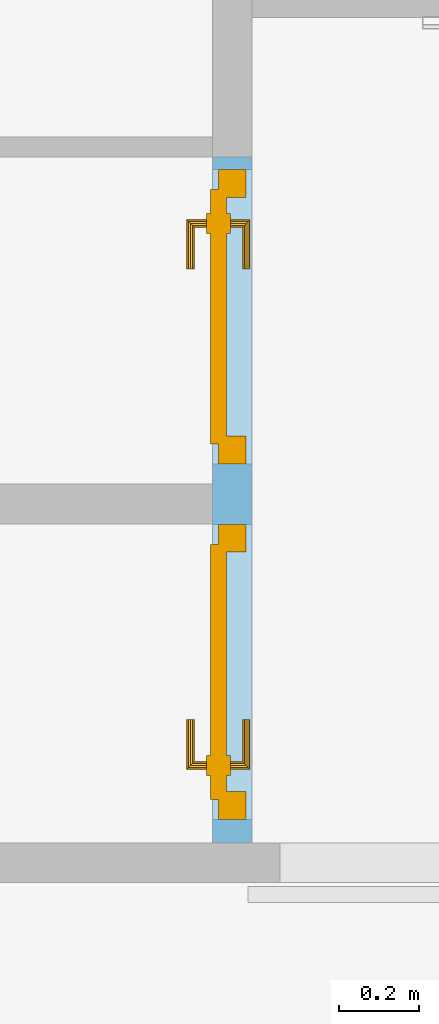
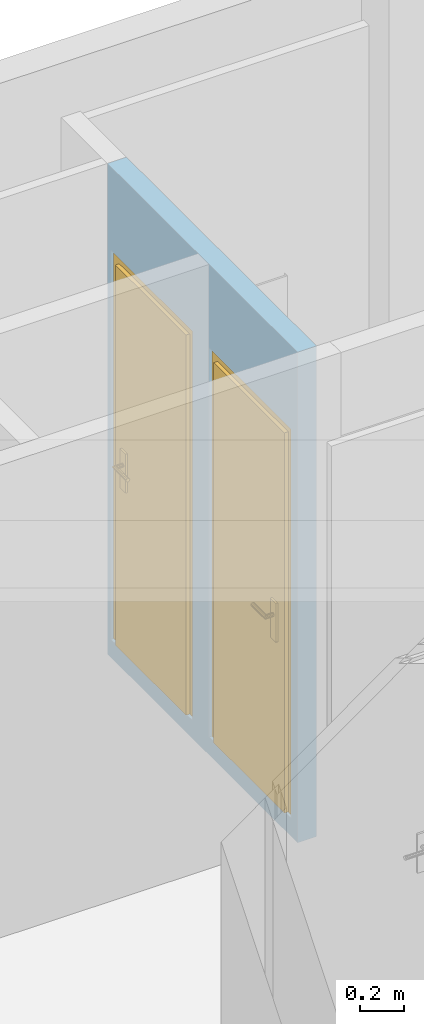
"""IFC4 building model written with IfcOpenShell, lengths in metres."""

from ifc_helpers import new_model, entity, si_unit, converted_unit, derived_unit, frame, origin, origin_with_axes, place, context, subcontext, project, spatial, polyline, outline, extrude, faceted_brep, source, transform, mapped, material, layer, layer_set, layer_usage, element, fill, save


model = new_model("IFC4")

# Units and contexts
model_context = context("Model", 3, precision=1e-05, world=origin())
body_context = subcontext(model_context, "Body", "Model", "MODEL_VIEW")
ifc_project = project(units=[si_unit("LENGTHUNIT", "METRE"), si_unit("AREAUNIT", "SQUARE_METRE"), si_unit("VOLUMEUNIT", "CUBIC_METRE"), si_unit("MASSUNIT", "GRAM", prefix="KILO"), converted_unit("PLANEANGLEUNIT", "DEGREE", entity("IfcPlaneAngleMeasure", 0.0174532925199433), si_unit("PLANEANGLEUNIT", "RADIAN"), dimensions=[0, 0, 0, 0, 0, 0, 0]), derived_unit("THERMALTRANSMITTANCEUNIT", [(si_unit("POWERUNIT", "WATT"), 1), (si_unit("THERMODYNAMICTEMPERATUREUNIT", "KELVIN"), -1), (si_unit("LENGTHUNIT", "METRE"), -2)]), derived_unit("VOLUMETRICFLOWRATEUNIT", [(si_unit("LENGTHUNIT", "METRE"), 3), (converted_unit("TIMEUNIT", "hour", entity("IfcTimeMeasure", 3600.0), si_unit("TIMEUNIT", "SECOND"), dimensions=[0, 0, 1, 0, 0, 0, 0]), -1), (si_unit("LENGTHUNIT", "METRE"), -1)])], contexts=[model_context])

# Building, storeys
building_placement = place(None, origin())
building = spatial("IfcBuilding", under=ifc_project, at=building_placement, Name="HABITATGE PLURIFAMILIAR", CompositionType="ELEMENT")
storey_1_placement = place(building_placement, frame((0.0, 0.0, 15.28)))
storey_1 = spatial("IfcBuildingStorey", under=building, at=storey_1_placement, Name="PLANTA QUARTA", CompositionType="ELEMENT", Elevation=15.28)
storey_2_placement = place(storey_1_placement, frame((0.0, 0.0, 12.27)))
storey_2 = spatial("IfcBuildingStorey", under=storey_1, at=storey_2_placement, Name="NOU", CompositionType="PARTIAL")

# Wall, openings, doors
ifc_material = material()
ifc_layer = layer(ifc_material, 0.1)
ifc_layer_set = layer_set([ifc_layer])
ifc_layer_usage = layer_usage(ifc_layer_set, "AXIS2", "POSITIVE", 0.0)
wall_placement = place(storey_2_placement, frame((408.986984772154, 25.9294598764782, -12.37), z_axis=(0.0, 0.0, 1.0), x_axis=(0.0, 1.0, 0.0)))
wall = element("IfcWall", 1, at=wall_placement, inside=storey_2, material=ifc_layer_usage, Name="Evans P4", context=body_context, shape_type="SweptSolid", body=[
    extrude(outline(polyline([(0.0, -0.1), (1.72, -0.1), (1.72, 0.0), (0.9, 0.0), (0.8, 0.0), (0.0, 0.0), (0.0, -0.1)])), frame((0.0, 0.1, 0.0), z_axis=(0.0, 0.0, 1.0), x_axis=(1.0, 0.0, 0.0)), (0.0, 0.0, 1.0), 2.71),
])
opening_1_placement = place(wall_placement, frame((1.68897366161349, 0.1, 0.1), z_axis=(0.0, -1.0, 0.0), x_axis=(0.0, 0.0, 1.0)))
opening_1 = element("IfcOpeningElement", 2, at=opening_1_placement, cuts=wall, Name="Vano porta P4", ObjectType="Opening", context=body_context, shape_type="SweptSolid", body=[
    extrude(outline(polyline([(2.15, 0.738973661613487), (2.15, 0.0), (0.0, 0.0), (0.0, 0.738973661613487), (2.15, 0.738973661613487)])), origin_with_axes(), (0.0, 0.0, 1.0), 0.1),
])
opening_2_placement = place(wall_placement, frame((0.798973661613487, 0.1, 0.1), z_axis=(0.0, -1.0, 0.0), x_axis=(0.0, 0.0, 1.0)))
opening_2 = element("IfcOpeningElement", 3, at=opening_2_placement, cuts=wall, Name="Vano porta P4", ObjectType="Opening", context=body_context, shape_type="SweptSolid", body=[
    extrude(outline(polyline([(2.15, 0.74), (2.15, 0.0), (0.0, 0.0), (0.0, 0.74), (2.15, 0.74)])), origin_with_axes(), (0.0, 0.0, 1.0), 0.1),
])
shared_shape_1 = source(origin_with_axes(), body_context, "Body", "Brep", [
    faceted_brep([(0.73897366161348, 0.0700000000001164, 2.15), (0.668973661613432, 0.0700000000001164, 2.15), (0.668973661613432, 0.0700000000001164, 0.0), (0.73897366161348, 0.0700000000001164, 0.0), (0.73897366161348, 0.0, 0.0), (0.668973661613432, 0.0, 0.0), (0.668973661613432, 0.0, 2.15), (0.73897366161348, 0.0, 2.15)], [[[0, 1, 2, 3]], [[4, 5, 6, 7]], [[3, 4, 7, 0]], [[2, 5, 4, 3]], [[1, 6, 5, 2]], [[0, 7, 6, 1]]], orient=[[False], [False], [False], [False], [False], [False]]),
    faceted_brep([(0.07000000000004, 0.0700000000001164, 2.15), (0.0, 0.0700000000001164, 2.15), (0.0, 0.0700000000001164, 0.0), (0.07000000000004, 0.0700000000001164, 0.0), (0.07000000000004, 0.0, 0.0), (0.0, 0.0, 0.0), (0.0, 0.0, 2.15), (0.07000000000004, 0.0, 2.15)], [[[0, 1, 2, 3]], [[4, 5, 6, 7]], [[3, 4, 7, 0]], [[2, 5, 4, 3]], [[1, 6, 5, 2]], [[0, 7, 6, 1]]], orient=[[False], [False], [False], [False], [False], [False]]),
    faceted_brep([(0.668973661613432, 0.0700000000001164, 2.15), (0.07000000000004, 0.0700000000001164, 2.15), (0.07000000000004, 0.0700000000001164, 2.08), (0.668973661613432, 0.0700000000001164, 2.08), (0.668973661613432, 0.0, 2.08), (0.07000000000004, 0.0, 2.08), (0.07000000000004, 0.0, 2.15), (0.668973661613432, 0.0, 2.15)], [[[0, 1, 2, 3]], [[4, 5, 6, 7]], [[3, 4, 7, 0]], [[2, 5, 4, 3]], [[1, 6, 5, 2]], [[0, 7, 6, 1]]], orient=[[False], [False], [False], [False], [False], [False]]),
    faceted_brep([(0.688973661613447, 0.0900000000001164, 2.1), (0.0500000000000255, 0.0900000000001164, 2.1), (0.0500000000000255, 0.0900000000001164, 0.0), (0.688973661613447, 0.0900000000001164, 0.0), (0.688973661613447, 0.0500000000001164, 0.0), (0.0500000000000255, 0.0500000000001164, 0.0), (0.0500000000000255, 0.0500000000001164, 2.1), (0.688973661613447, 0.0500000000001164, 2.1)], [[[0, 1, 2, 3]], [[4, 5, 6, 7]], [[3, 4, 7, 0]], [[2, 5, 4, 3]], [[1, 6, 5, 2]], [[0, 7, 6, 1]]], orient=[[False], [False], [False], [False], [False], [False]]),
    faceted_brep([(0.628973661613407, 0.0500000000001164, 1.125), (0.578973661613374, 0.0500000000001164, 1.125), (0.578973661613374, 0.0500000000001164, 0.91), (0.628973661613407, 0.0500000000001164, 0.91), (0.628973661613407, 0.0400000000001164, 0.91), (0.578973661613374, 0.0400000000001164, 0.91), (0.578973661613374, 0.0400000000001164, 1.125), (0.628973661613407, 0.0400000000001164, 1.125)], [[[0, 1, 2, 3]], [[4, 5, 6, 7]], [[3, 4, 7, 0]], [[2, 5, 4, 3]], [[1, 6, 5, 2]], [[0, 7, 6, 1]]], orient=[[False], [False], [False], [False], [False], [False]]),
    faceted_brep([(0.603973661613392, 0.0400000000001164, 1.06), (0.598973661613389, 0.0400000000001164, 1.05866025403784), (0.595313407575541, 0.0400000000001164, 1.055), (0.593973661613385, 0.0400000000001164, 1.05), (0.595313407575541, 0.0400000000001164, 1.045), (0.598973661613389, 0.0400000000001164, 1.04133974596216), (0.603973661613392, 0.0400000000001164, 1.04), (0.608973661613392, 0.0400000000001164, 1.04133974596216), (0.61263391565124, 0.0400000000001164, 1.045), (0.613973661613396, 0.0400000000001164, 1.05), (0.61263391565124, 0.0400000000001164, 1.055), (0.608973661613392, 0.0400000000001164, 1.05866025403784), (0.608973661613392, -0.00499999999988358, 1.05866025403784), (0.603973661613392, 0.0, 1.06), (0.61263391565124, -0.00866025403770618, 1.055), (0.613973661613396, -0.00999999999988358, 1.05), (0.61263391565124, -0.00866025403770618, 1.045), (0.608973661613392, -0.00499999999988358, 1.04133974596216), (0.603973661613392, 0.0, 1.04), (0.598973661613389, 0.00500000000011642, 1.04133974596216), (0.595313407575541, 0.00866025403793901, 1.045), (0.593973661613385, 0.0100000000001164, 1.05), (0.595313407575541, 0.00866025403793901, 1.055), (0.598973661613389, 0.00500000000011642, 1.05866025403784), (0.488973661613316, 0.0, 1.06), (0.488973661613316, -0.00499999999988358, 1.05866025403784), (0.488973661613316, -0.00866025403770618, 1.055), (0.488973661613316, -0.00999999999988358, 1.05), (0.488973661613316, -0.00866025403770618, 1.045), (0.488973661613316, -0.00499999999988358, 1.04133974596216), (0.488973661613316, 0.0, 1.04), (0.488973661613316, 0.00500000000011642, 1.04133974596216), (0.488973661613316, 0.00866025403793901, 1.045), (0.488973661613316, 0.0100000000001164, 1.05), (0.488973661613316, 0.00866025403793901, 1.055), (0.488973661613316, 0.00500000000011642, 1.05866025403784)], [[[0, 1, 2, 3, 4, 5, 6, 7, 8, 9, 10, 11]], [[0, 11, 12, 13]], [[11, 10, 14, 12]], [[10, 9, 15, 14]], [[9, 8, 16, 15]], [[8, 7, 17, 16]], [[7, 6, 18, 17]], [[6, 5, 19, 18]], [[5, 4, 20, 19]], [[4, 3, 21, 20]], [[3, 2, 22, 21]], [[2, 1, 23, 22]], [[1, 0, 13, 23]], [[24, 25, 26, 27, 28, 29, 30, 31, 32, 33, 34, 35]], [[13, 12, 25, 24]], [[12, 14, 26, 25]], [[14, 15, 27, 26]], [[15, 16, 28, 27]], [[16, 17, 29, 28]], [[17, 18, 30, 29]], [[18, 19, 31, 30]], [[19, 20, 32, 31]], [[20, 21, 33, 32]], [[21, 22, 34, 33]], [[22, 23, 35, 34]], [[23, 13, 24, 35]]], orient=[[False], [False], [False], [False], [False], [False], [False], [False], [False], [False], [False], [False], [False], [False], [False], [False], [False], [False], [False], [False], [False], [False], [False], [False], [False], [False]]),
    faceted_brep([(0.628973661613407, 0.0900000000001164, 1.125), (0.628973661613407, 0.0900000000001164, 0.91), (0.578973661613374, 0.0900000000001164, 0.91), (0.578973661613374, 0.0900000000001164, 1.125), (0.628973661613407, 0.100000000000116, 0.91), (0.628973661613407, 0.100000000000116, 1.125), (0.578973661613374, 0.100000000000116, 1.125), (0.578973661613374, 0.100000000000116, 0.91)], [[[0, 1, 2, 3]], [[4, 5, 6, 7]], [[1, 0, 5, 4]], [[2, 1, 4, 7]], [[3, 2, 7, 6]], [[0, 3, 6, 5]]], orient=[[False], [False], [False], [False], [False], [False]]),
    faceted_brep([(0.603973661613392, 0.100000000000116, 1.06), (0.608973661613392, 0.100000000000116, 1.05866025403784), (0.61263391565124, 0.100000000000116, 1.055), (0.613973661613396, 0.100000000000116, 1.05), (0.61263391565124, 0.100000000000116, 1.045), (0.608973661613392, 0.100000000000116, 1.04133974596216), (0.603973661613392, 0.100000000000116, 1.04), (0.598973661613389, 0.100000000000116, 1.04133974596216), (0.595313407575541, 0.100000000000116, 1.045), (0.593973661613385, 0.100000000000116, 1.05), (0.595313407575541, 0.100000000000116, 1.055), (0.598973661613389, 0.100000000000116, 1.05866025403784), (0.603973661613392, 0.140000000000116, 1.06), (0.608973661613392, 0.145000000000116, 1.05866025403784), (0.61263391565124, 0.148660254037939, 1.055), (0.613973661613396, 0.150000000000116, 1.05), (0.61263391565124, 0.148660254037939, 1.045), (0.608973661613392, 0.145000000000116, 1.04133974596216), (0.603973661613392, 0.140000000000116, 1.04), (0.598973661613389, 0.135000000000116, 1.04133974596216), (0.595313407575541, 0.131339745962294, 1.045), (0.593973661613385, 0.130000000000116, 1.05), (0.595313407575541, 0.131339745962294, 1.055), (0.598973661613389, 0.135000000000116, 1.05866025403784), (0.488973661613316, 0.140000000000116, 1.06), (0.488973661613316, 0.135000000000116, 1.05866025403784), (0.488973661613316, 0.131339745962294, 1.055), (0.488973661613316, 0.130000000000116, 1.05), (0.488973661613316, 0.131339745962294, 1.045), (0.488973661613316, 0.135000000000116, 1.04133974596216), (0.488973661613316, 0.140000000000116, 1.04), (0.488973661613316, 0.145000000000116, 1.04133974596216), (0.488973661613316, 0.148660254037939, 1.045), (0.488973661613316, 0.150000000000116, 1.05), (0.488973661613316, 0.148660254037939, 1.055), (0.488973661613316, 0.145000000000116, 1.05866025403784)], [[[0, 1, 2, 3, 4, 5, 6, 7, 8, 9, 10, 11]], [[0, 12, 13, 1]], [[1, 13, 14, 2]], [[2, 14, 15, 3]], [[3, 15, 16, 4]], [[4, 16, 17, 5]], [[5, 17, 18, 6]], [[6, 18, 19, 7]], [[7, 19, 20, 8]], [[8, 20, 21, 9]], [[9, 21, 22, 10]], [[10, 22, 23, 11]], [[11, 23, 12, 0]], [[24, 25, 26, 27, 28, 29, 30, 31, 32, 33, 34, 35]], [[12, 24, 35, 13]], [[13, 35, 34, 14]], [[14, 34, 33, 15]], [[15, 33, 32, 16]], [[16, 32, 31, 17]], [[17, 31, 30, 18]], [[18, 30, 29, 19]], [[19, 29, 28, 20]], [[20, 28, 27, 21]], [[21, 27, 26, 22]], [[22, 26, 25, 23]], [[23, 25, 24, 12]]], orient=[[False], [False], [False], [False], [False], [False], [False], [False], [False], [False], [False], [False], [False], [False], [False], [False], [False], [False], [False], [False], [False], [False], [False], [False], [False], [False]]),
])
door_1_placement = place(opening_1_placement, frame((0.0, 0.738973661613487, 0.085), z_axis=(1.0, 0.0, 0.0), x_axis=(0.0, -1.0, 0.0)))
door_1 = element("IfcDoor", 4, at=door_1_placement, inside=storey_2, Name="Porta P4", OperationType="USERDEFINED", OverallHeight=2.15, OverallWidth=0.73897, PredefinedType="DOOR", context=body_context, shape_type="MappedRepresentation", body=[
    mapped(shared_shape_1, transform((0.0, 0.0, 0.0), x_axis=(1.0, 0.0, 0.0), y_axis=(0.0, 1.0, 0.0), z_axis=(0.0, 0.0, 1.0), scale=1.0)),
])
fill(opening_1, door_1)
shared_shape_2 = source(origin_with_axes(), body_context, "Body", "Brep", [
    faceted_brep([(0.0, 0.0700000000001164, 2.15), (0.0, 0.0700000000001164, 0.0), (0.0699999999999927, 0.0700000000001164, 0.0), (0.0699999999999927, 0.0700000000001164, 2.15), (0.0, 0.0, 0.0), (0.0, 0.0, 2.15), (0.0699999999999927, 0.0, 2.15), (0.0699999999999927, 0.0, 0.0)], [[[0, 1, 2, 3]], [[4, 5, 6, 7]], [[1, 0, 5, 4]], [[2, 1, 4, 7]], [[3, 2, 7, 6]], [[0, 3, 6, 5]]], orient=[[False], [False], [False], [False], [False], [False]]),
    faceted_brep([(0.669999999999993, 0.0700000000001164, 2.15), (0.669999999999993, 0.0700000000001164, 0.0), (0.739999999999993, 0.0700000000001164, 0.0), (0.739999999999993, 0.0700000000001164, 2.15), (0.669999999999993, 0.0, 0.0), (0.669999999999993, 0.0, 2.15), (0.739999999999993, 0.0, 2.15), (0.739999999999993, 0.0, 0.0)], [[[0, 1, 2, 3]], [[4, 5, 6, 7]], [[1, 0, 5, 4]], [[2, 1, 4, 7]], [[3, 2, 7, 6]], [[0, 3, 6, 5]]], orient=[[False], [False], [False], [False], [False], [False]]),
    faceted_brep([(0.0699999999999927, 0.0700000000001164, 2.15), (0.0699999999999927, 0.0700000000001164, 2.08), (0.669999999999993, 0.0700000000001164, 2.08), (0.669999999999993, 0.0700000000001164, 2.15), (0.0699999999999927, 0.0, 2.08), (0.0699999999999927, 0.0, 2.15), (0.669999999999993, 0.0, 2.15), (0.669999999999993, 0.0, 2.08)], [[[0, 1, 2, 3]], [[4, 5, 6, 7]], [[1, 0, 5, 4]], [[2, 1, 4, 7]], [[3, 2, 7, 6]], [[0, 3, 6, 5]]], orient=[[False], [False], [False], [False], [False], [False]]),
    faceted_brep([(0.0499999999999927, 0.0900000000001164, 2.1), (0.0499999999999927, 0.0900000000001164, 0.0), (0.689999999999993, 0.0900000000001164, 0.0), (0.689999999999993, 0.0900000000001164, 2.1), (0.0499999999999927, 0.0500000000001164, 0.0), (0.0499999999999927, 0.0500000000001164, 2.1), (0.689999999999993, 0.0500000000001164, 2.1), (0.689999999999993, 0.0500000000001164, 0.0)], [[[0, 1, 2, 3]], [[4, 5, 6, 7]], [[1, 0, 5, 4]], [[2, 1, 4, 7]], [[3, 2, 7, 6]], [[0, 3, 6, 5]]], orient=[[False], [False], [False], [False], [False], [False]]),
    faceted_brep([(0.109999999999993, 0.0500000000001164, 1.125), (0.109999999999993, 0.0500000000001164, 0.91), (0.159999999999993, 0.0500000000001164, 0.91), (0.159999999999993, 0.0500000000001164, 1.125), (0.109999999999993, 0.0400000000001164, 0.91), (0.109999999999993, 0.0400000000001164, 1.125), (0.159999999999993, 0.0400000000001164, 1.125), (0.159999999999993, 0.0400000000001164, 0.91)], [[[0, 1, 2, 3]], [[4, 5, 6, 7]], [[1, 0, 5, 4]], [[2, 1, 4, 7]], [[3, 2, 7, 6]], [[0, 3, 6, 5]]], orient=[[False], [False], [False], [False], [False], [False]]),
    faceted_brep([(0.134999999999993, 0.0400000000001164, 1.06), (0.129999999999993, 0.0400000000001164, 1.05866025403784), (0.126339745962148, 0.0400000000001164, 1.055), (0.124999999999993, 0.0400000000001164, 1.05), (0.126339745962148, 0.0400000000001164, 1.045), (0.129999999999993, 0.0400000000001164, 1.04133974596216), (0.134999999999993, 0.0400000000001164, 1.04), (0.139999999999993, 0.0400000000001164, 1.04133974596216), (0.143660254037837, 0.0400000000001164, 1.045), (0.144999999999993, 0.0400000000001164, 1.05), (0.143660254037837, 0.0400000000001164, 1.055), (0.139999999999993, 0.0400000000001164, 1.05866025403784), (0.134999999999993, 0.0, 1.06), (0.129999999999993, -0.00499999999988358, 1.05866025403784), (0.126339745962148, -0.00866025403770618, 1.055), (0.124999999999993, -0.00999999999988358, 1.05), (0.126339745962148, -0.00866025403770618, 1.045), (0.129999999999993, -0.00499999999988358, 1.04133974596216), (0.134999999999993, 0.0, 1.04), (0.139999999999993, 0.00500000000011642, 1.04133974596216), (0.143660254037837, 0.00866025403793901, 1.045), (0.144999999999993, 0.0100000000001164, 1.05), (0.143660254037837, 0.00866025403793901, 1.055), (0.139999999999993, 0.00500000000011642, 1.05866025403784), (0.249999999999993, 0.0, 1.06), (0.249999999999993, 0.00500000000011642, 1.05866025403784), (0.249999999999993, 0.00866025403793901, 1.055), (0.249999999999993, 0.0100000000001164, 1.05), (0.249999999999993, 0.00866025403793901, 1.045), (0.249999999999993, 0.00500000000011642, 1.04133974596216), (0.249999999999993, 0.0, 1.04), (0.249999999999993, -0.00499999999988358, 1.04133974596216), (0.249999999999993, -0.00866025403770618, 1.045), (0.249999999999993, -0.00999999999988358, 1.05), (0.249999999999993, -0.00866025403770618, 1.055), (0.249999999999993, -0.00499999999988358, 1.05866025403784)], [[[0, 1, 2, 3, 4, 5, 6, 7, 8, 9, 10, 11]], [[0, 12, 13, 1]], [[1, 13, 14, 2]], [[2, 14, 15, 3]], [[3, 15, 16, 4]], [[4, 16, 17, 5]], [[5, 17, 18, 6]], [[6, 18, 19, 7]], [[7, 19, 20, 8]], [[8, 20, 21, 9]], [[9, 21, 22, 10]], [[10, 22, 23, 11]], [[11, 23, 12, 0]], [[24, 25, 26, 27, 28, 29, 30, 31, 32, 33, 34, 35]], [[12, 24, 35, 13]], [[13, 35, 34, 14]], [[14, 34, 33, 15]], [[15, 33, 32, 16]], [[16, 32, 31, 17]], [[17, 31, 30, 18]], [[18, 30, 29, 19]], [[19, 29, 28, 20]], [[20, 28, 27, 21]], [[21, 27, 26, 22]], [[22, 26, 25, 23]], [[23, 25, 24, 12]]], orient=[[False], [False], [False], [False], [False], [False], [False], [False], [False], [False], [False], [False], [False], [False], [False], [False], [False], [False], [False], [False], [False], [False], [False], [False], [False], [False]]),
    faceted_brep([(0.109999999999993, 0.0900000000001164, 1.125), (0.159999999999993, 0.0900000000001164, 1.125), (0.159999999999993, 0.0900000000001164, 0.91), (0.109999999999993, 0.0900000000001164, 0.91), (0.109999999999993, 0.100000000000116, 0.91), (0.159999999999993, 0.100000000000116, 0.91), (0.159999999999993, 0.100000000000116, 1.125), (0.109999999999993, 0.100000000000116, 1.125)], [[[0, 1, 2, 3]], [[4, 5, 6, 7]], [[3, 4, 7, 0]], [[2, 5, 4, 3]], [[1, 6, 5, 2]], [[0, 7, 6, 1]]], orient=[[False], [False], [False], [False], [False], [False]]),
    faceted_brep([(0.134999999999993, 0.100000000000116, 1.06), (0.139999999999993, 0.100000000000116, 1.05866025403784), (0.143660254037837, 0.100000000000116, 1.055), (0.144999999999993, 0.100000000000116, 1.05), (0.143660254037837, 0.100000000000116, 1.045), (0.139999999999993, 0.100000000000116, 1.04133974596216), (0.134999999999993, 0.100000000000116, 1.04), (0.129999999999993, 0.100000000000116, 1.04133974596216), (0.126339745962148, 0.100000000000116, 1.045), (0.124999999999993, 0.100000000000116, 1.05), (0.126339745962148, 0.100000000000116, 1.055), (0.129999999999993, 0.100000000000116, 1.05866025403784), (0.129999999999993, 0.145000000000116, 1.05866025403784), (0.134999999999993, 0.140000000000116, 1.06), (0.126339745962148, 0.148660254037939, 1.055), (0.124999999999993, 0.150000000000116, 1.05), (0.126339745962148, 0.148660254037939, 1.045), (0.129999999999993, 0.145000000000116, 1.04133974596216), (0.134999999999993, 0.140000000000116, 1.04), (0.139999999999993, 0.135000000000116, 1.04133974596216), (0.143660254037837, 0.131339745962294, 1.045), (0.144999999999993, 0.130000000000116, 1.05), (0.143660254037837, 0.131339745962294, 1.055), (0.139999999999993, 0.135000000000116, 1.05866025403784), (0.249999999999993, 0.140000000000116, 1.06), (0.249999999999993, 0.145000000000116, 1.05866025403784), (0.249999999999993, 0.148660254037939, 1.055), (0.249999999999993, 0.150000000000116, 1.05), (0.249999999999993, 0.148660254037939, 1.045), (0.249999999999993, 0.145000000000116, 1.04133974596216), (0.249999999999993, 0.140000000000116, 1.04), (0.249999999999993, 0.135000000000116, 1.04133974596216), (0.249999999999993, 0.131339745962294, 1.045), (0.249999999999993, 0.130000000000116, 1.05), (0.249999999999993, 0.131339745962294, 1.055), (0.249999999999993, 0.135000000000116, 1.05866025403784)], [[[0, 1, 2, 3, 4, 5, 6, 7, 8, 9, 10, 11]], [[0, 11, 12, 13]], [[11, 10, 14, 12]], [[10, 9, 15, 14]], [[9, 8, 16, 15]], [[8, 7, 17, 16]], [[7, 6, 18, 17]], [[6, 5, 19, 18]], [[5, 4, 20, 19]], [[4, 3, 21, 20]], [[3, 2, 22, 21]], [[2, 1, 23, 22]], [[1, 0, 13, 23]], [[24, 25, 26, 27, 28, 29, 30, 31, 32, 33, 34, 35]], [[13, 12, 25, 24]], [[12, 14, 26, 25]], [[14, 15, 27, 26]], [[15, 16, 28, 27]], [[16, 17, 29, 28]], [[17, 18, 30, 29]], [[18, 19, 31, 30]], [[19, 20, 32, 31]], [[20, 21, 33, 32]], [[21, 22, 34, 33]], [[22, 23, 35, 34]], [[23, 13, 24, 35]]], orient=[[False], [False], [False], [False], [False], [False], [False], [False], [False], [False], [False], [False], [False], [False], [False], [False], [False], [False], [False], [False], [False], [False], [False], [False], [False], [False]]),
])
door_2_placement = place(opening_2_placement, frame((0.0, 0.74, 0.085), z_axis=(1.0, 0.0, 0.0), x_axis=(0.0, -1.0, 0.0)))
door_2 = element("IfcDoor", 5, at=door_2_placement, inside=storey_2, Name="Porta P4", OperationType="USERDEFINED", OverallHeight=2.15, OverallWidth=0.74, PredefinedType="DOOR", context=body_context, shape_type="MappedRepresentation", body=[
    mapped(shared_shape_2, transform((0.0, 0.0, 0.0), x_axis=(1.0, 0.0, 0.0), y_axis=(0.0, 1.0, 0.0), z_axis=(0.0, 0.0, 1.0), scale=1.0)),
])
fill(opening_2, door_2)

save(model, "model.ifc")
